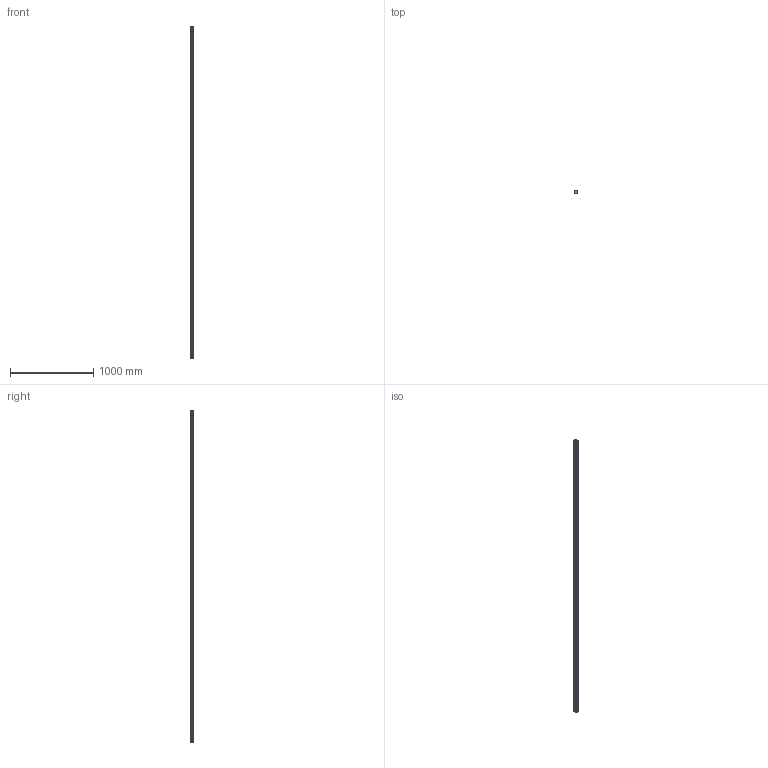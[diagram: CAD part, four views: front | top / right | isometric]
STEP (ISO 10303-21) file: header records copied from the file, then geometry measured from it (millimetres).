
FILE_DESCRIPTION((''),'2;1');
FILE_NAME('KUGELSCHIENE_CS_ASM','2020-01-15T23:14:38',('ac91sw'),(''),'CREO PARAMETRIC BY PTC INC, 2018420','CREO PARAMETRIC BY PTC INC, 2018420','');
FILE_SCHEMA(('AUTOMOTIVE_DESIGN { 1 0 10303 214 1 1 1 1 }'));
Length unit declared in the file: millimetre
Products named in the file (3): KUGELSCHIENE_CS_SKEL; KUGELSCHIENE_CS_RAIL1; KUGELSCHIENE_CS_ASM
Assembly tree (2 placements, depth 2):
  KUGELSCHIENE_CS_ASM
    KUGELSCHIENE_CS_SKEL
    KUGELSCHIENE_CS_RAIL1
Bounding box: 45 x 39.85 x 4000 mm (x, y, z)
Volume: 5348490.2 mm3; surface area: 795642 mm2
Topology: 1 solids, 1 shells, 420 faces, 860 edges, 556 vertices
Faces by surface type: cylinder 232, plane 180, cone 8
Entity records: 13277 total; most frequent: DIRECTION 2166, CARTESIAN_POINT 1909, ORIENTED_EDGE 1720, AXIS2_PLACEMENT_3D 897, EDGE_CURVE 860, VERTEX_POINT 556, EDGE_LOOP 534, CIRCLE 472
